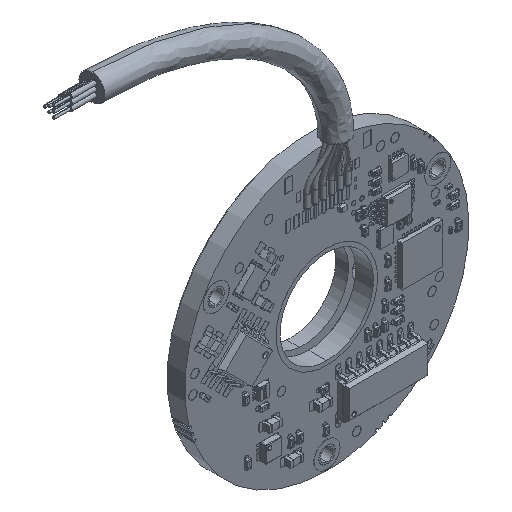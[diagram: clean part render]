
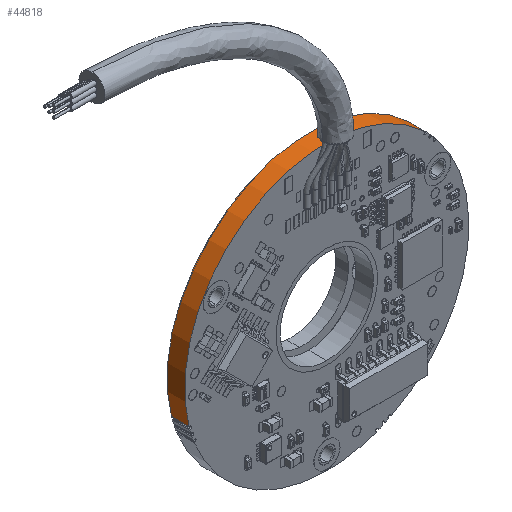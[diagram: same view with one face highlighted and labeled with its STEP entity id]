
A CAD part, isometric view. The second image highlights one B-rep face of the part: STEP entity #44818.
In plain terms, the highlighted cylindrical face has radius 17.5 mm (diameter 35 mm), a partial arc.
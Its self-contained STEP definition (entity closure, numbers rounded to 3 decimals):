
#330 = ORIENTED_EDGE ( 'NONE', *, *, #374339, .F. ) ;
#24774 = ORIENTED_EDGE ( 'NONE', *, *, #149123, .F. ) ;
#43264 = VECTOR ( 'NONE', #276781, 1000. ) ;
#44818 = ADVANCED_FACE ( 'NONE', ( #197047 ), #371043, .T. ) ;
#54152 = AXIS2_PLACEMENT_3D ( 'NONE', #212032, #332408, #187072 ) ;
#74223 = VECTOR ( 'NONE', #280998, 1000. ) ;
#119956 = CARTESIAN_POINT ( 'NONE',  ( 0., 2.17, 0. ) ) ;
#122729 = EDGE_LOOP ( 'NONE', ( #237707, #24774, #330, #125964 ) ) ;
#125964 = ORIENTED_EDGE ( 'NONE', *, *, #314565, .T. ) ;
#130123 = CARTESIAN_POINT ( 'NONE',  ( 12.086, 0., 12.656 ) ) ;
#135939 = DIRECTION ( 'NONE',  ( 0., -1., 0. ) ) ;
#148241 = VERTEX_POINT ( 'NONE', #193874 ) ;
#149123 = EDGE_CURVE ( 'NONE', #148241, #323129, #244359, .T. ) ;
#160599 = LINE ( 'NONE', #277293, #74223 ) ;
#187072 = DIRECTION ( 'NONE',  ( 0., 0., 1. ) ) ;
#193874 = CARTESIAN_POINT ( 'NONE',  ( 12.086, 2.17, 12.656 ) ) ;
#194758 = CIRCLE ( 'NONE', #54152, 17.5 ) ;
#197047 = FACE_OUTER_BOUND ( 'NONE', #122729, .T. ) ;
#212032 = CARTESIAN_POINT ( 'NONE',  ( 0., 0., 0. ) ) ;
#223954 = CARTESIAN_POINT ( 'NONE',  ( 0., 2.17, 0. ) ) ;
#237707 = ORIENTED_EDGE ( 'NONE', *, *, #373256, .T. ) ;
#244359 = LINE ( 'NONE', #360864, #43264 ) ;
#247913 = VERTEX_POINT ( 'NONE', #251897 ) ;
#251897 = CARTESIAN_POINT ( 'NONE',  ( -16.943, 0., -4.379 ) ) ;
#254565 = DIRECTION ( 'NONE',  ( 0., 0., -1. ) ) ;
#254625 = CARTESIAN_POINT ( 'NONE',  ( -16.943, 2.17, -4.379 ) ) ;
#258250 = VERTEX_POINT ( 'NONE', #254625 ) ;
#259684 = DIRECTION ( 'NONE',  ( 0., 0., 1. ) ) ;
#261747 = CIRCLE ( 'NONE', #359312, 17.5 ) ;
#276781 = DIRECTION ( 'NONE',  ( 0., -1., 0. ) ) ;
#276962 = AXIS2_PLACEMENT_3D ( 'NONE', #223954, #135939, #254565 ) ;
#277293 = CARTESIAN_POINT ( 'NONE',  ( -16.943, 2.201, -4.379 ) ) ;
#280998 = DIRECTION ( 'NONE',  ( 0., -1., 0. ) ) ;
#314565 = EDGE_CURVE ( 'NONE', #258250, #247913, #160599, .T. ) ;
#323129 = VERTEX_POINT ( 'NONE', #130123 ) ;
#332408 = DIRECTION ( 'NONE',  ( 0., 1., 0. ) ) ;
#345602 = DIRECTION ( 'NONE',  ( 0., 1., 0. ) ) ;
#359312 = AXIS2_PLACEMENT_3D ( 'NONE', #119956, #345602, #259684 ) ;
#360864 = CARTESIAN_POINT ( 'NONE',  ( 12.086, 2.201, 12.656 ) ) ;
#371043 = CYLINDRICAL_SURFACE ( 'NONE', #276962, 17.5 ) ;
#373256 = EDGE_CURVE ( 'NONE', #247913, #323129, #194758, .T. ) ;
#374339 = EDGE_CURVE ( 'NONE', #258250, #148241, #261747, .T. ) ;
